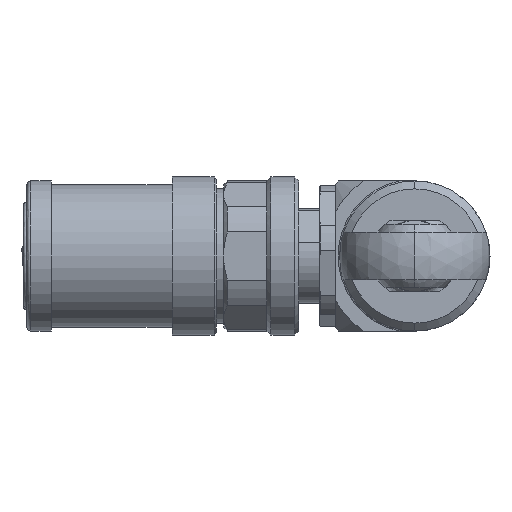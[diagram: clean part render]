
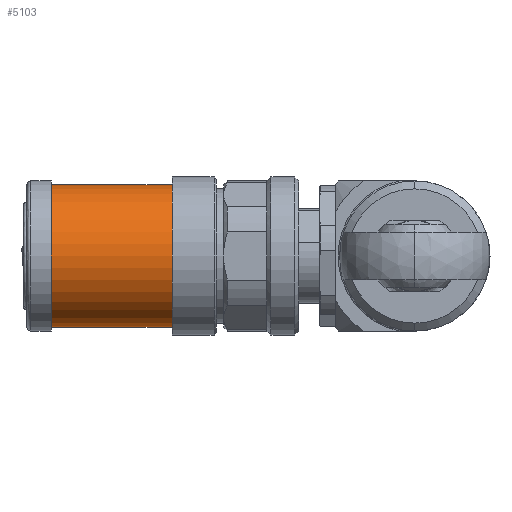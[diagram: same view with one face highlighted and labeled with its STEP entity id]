
A CAD part, left-side view. The second image highlights one B-rep face of the part: STEP entity #5103.
In plain terms, the highlighted cylindrical face has radius 9 mm (diameter 18 mm), a partial arc.
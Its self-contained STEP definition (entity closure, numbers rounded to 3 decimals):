
#524 = EDGE_CURVE ( 'NONE', #6250, #6172, #5238, .T. ) ;
#554 = AXIS2_PLACEMENT_3D ( 'NONE', #5344, #5463, #624 ) ;
#624 = DIRECTION ( 'NONE',  ( 0., 0., 1. ) ) ;
#781 = DIRECTION ( 'NONE',  ( 0., 0., 1. ) ) ;
#825 = CYLINDRICAL_SURFACE ( 'NONE', #7161, 9. ) ;
#1248 = ORIENTED_EDGE ( 'NONE', *, *, #7039, .T. ) ;
#1945 = CARTESIAN_POINT ( 'NONE',  ( -44.5, 51.04, 0. ) ) ;
#2220 = EDGE_CURVE ( 'NONE', #7663, #6172, #4838, .T. ) ;
#2416 = CARTESIAN_POINT ( 'NONE',  ( -44.5, 46., 0. ) ) ;
#2638 = CARTESIAN_POINT ( 'NONE',  ( -44.5, 46., 9. ) ) ;
#2752 = AXIS2_PLACEMENT_3D ( 'NONE', #2416, #7638, #4084 ) ;
#2868 = CIRCLE ( 'NONE', #2752, 9. ) ;
#3137 = CARTESIAN_POINT ( 'NONE',  ( -44.5, 46., -9. ) ) ;
#3364 = ORIENTED_EDGE ( 'NONE', *, *, #2220, .F. ) ;
#3935 = CARTESIAN_POINT ( 'NONE',  ( -44.5, 51.04, 9. ) ) ;
#4084 = DIRECTION ( 'NONE',  ( 0., 0., 1. ) ) ;
#4564 = VECTOR ( 'NONE', #6721, 1000. ) ;
#4587 = ORIENTED_EDGE ( 'NONE', *, *, #524, .T. ) ;
#4773 = EDGE_CURVE ( 'NONE', #7492, #6250, #7181, .T. ) ;
#4810 = DIRECTION ( 'NONE',  ( 0., -1., 0. ) ) ;
#4838 = LINE ( 'NONE', #3935, #6445 ) ;
#5103 = ADVANCED_FACE ( 'NONE', ( #6121 ), #825, .T. ) ;
#5190 = ORIENTED_EDGE ( 'NONE', *, *, #4773, .T. ) ;
#5238 = CIRCLE ( 'NONE', #554, 9. ) ;
#5336 = CARTESIAN_POINT ( 'NONE',  ( -44.5, 30.7, -9. ) ) ;
#5344 = CARTESIAN_POINT ( 'NONE',  ( -44.5, 30.7, 0. ) ) ;
#5463 = DIRECTION ( 'NONE',  ( 0., 1., 0. ) ) ;
#5773 = CARTESIAN_POINT ( 'NONE',  ( -44.5, 30.7, 9. ) ) ;
#6090 = CARTESIAN_POINT ( 'NONE',  ( -44.5, 51.04, -9. ) ) ;
#6121 = FACE_OUTER_BOUND ( 'NONE', #6994, .T. ) ;
#6172 = VERTEX_POINT ( 'NONE', #5773 ) ;
#6250 = VERTEX_POINT ( 'NONE', #5336 ) ;
#6303 = DIRECTION ( 'NONE',  ( 0., -1., 0. ) ) ;
#6445 = VECTOR ( 'NONE', #6303, 1000. ) ;
#6721 = DIRECTION ( 'NONE',  ( 0., -1., 0. ) ) ;
#6994 = EDGE_LOOP ( 'NONE', ( #1248, #5190, #4587, #3364 ) ) ;
#7039 = EDGE_CURVE ( 'NONE', #7663, #7492, #2868, .T. ) ;
#7161 = AXIS2_PLACEMENT_3D ( 'NONE', #1945, #4810, #781 ) ;
#7181 = LINE ( 'NONE', #6090, #4564 ) ;
#7492 = VERTEX_POINT ( 'NONE', #3137 ) ;
#7638 = DIRECTION ( 'NONE',  ( 0., -1., 0. ) ) ;
#7663 = VERTEX_POINT ( 'NONE', #2638 ) ;
